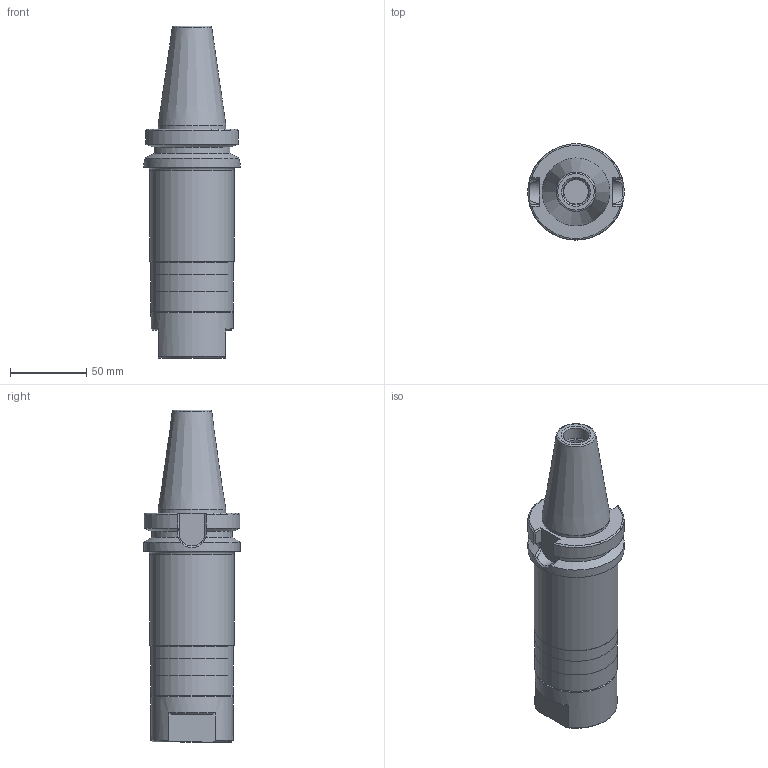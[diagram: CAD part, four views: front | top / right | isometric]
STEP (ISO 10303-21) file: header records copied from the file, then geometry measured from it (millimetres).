
FILE_DESCRIPTION(/* description */ (''),/* implementation_level */ '2;1');
FILE_NAME(/* name */ 'BT40-SCA40.stp',/* time_stamp */ '2025-09-25T09:10:08+03:00',/* author */ ('User'),/* organization */ (''),/* preprocessor_version */ 'ST-DEVELOPER v19.2',/* originating_system */ 'Autodesk Inventor 2024',/* authorisation */ '');
FILE_SCHEMA (('AUTOMOTIVE_DESIGN { 1 0 10303 214 3 1 1 }'));
Length unit declared in the file: millimetre
Products named in the file (7): BT40-SCA22; BT40-SCA16; Крышка; шпонка; Кольцо 10 мм; Кольцо 10 мм_1; Кольцо 10 мм_2
Assembly tree (6 placements, depth 2):
  BT40-SCA22
    BT40-SCA16
    Крышка
    шпонка
    Кольцо 10 мм
    Кольцо 10 мм_1
    Кольцо 10 мм_2
Bounding box: 63 x 63 x 217.2 mm (x, y, z)
Volume: 411067.3 mm3; surface area: 66634.8 mm2
Topology: 6 solids, 6 shells, 120 faces, 308 edges, 206 vertices
Faces by surface type: plane 54, cylinder 25, cone 23, bspline 14, torus 4
Full cylindrical faces by diameter (mm): 16 x1, 17 x1, 33.835 x1, 36 x1, 40 x1, 44 x1, 53.7 x1, 54 x3, 55 x1, 63 x1
Entity records: 4589 total; most frequent: CARTESIAN_POINT 1473, ORIENTED_EDGE 616, DIRECTION 528, EDGE_CURVE 308, VERTEX_POINT 206, AXIS2_PLACEMENT_3D 205, EDGE_LOOP 134, FACE_OUTER_BOUND 120
